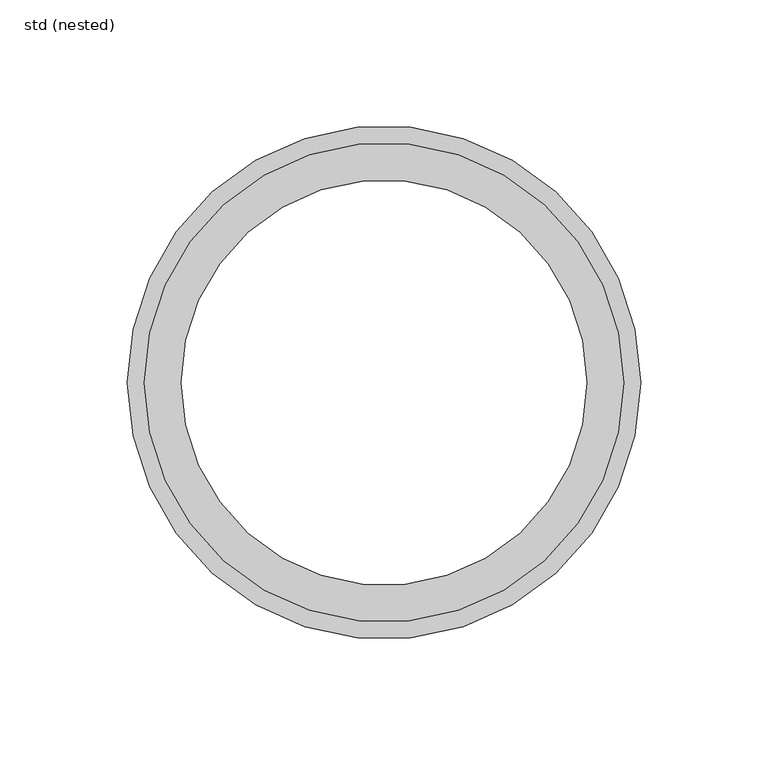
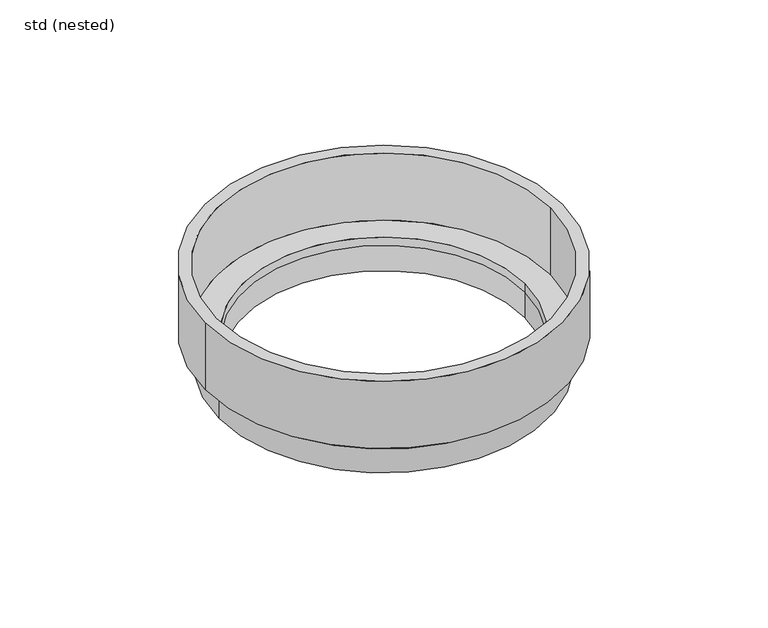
"""IFC4 building model written with IfcOpenShell, lengths in millimetres: sanitary terminal geometry, ZZZ_do not use_PF_CI_extension ring for Passavant Spin_ACO : std (nested)."""

from ifc_helpers import new_model, si_unit, frame, origin, origin_with_axes, place, context, project, spatial, polyline, circle_curve, source, transform, mapped, element, save
from ifc_brep_helpers import plane_surface, cylinder_surface, revolved_surface, advanced_brep


def std_nested_39a4419e(model_context):
    return source(origin(), model_context, "Body", "AdvancedBrep", [
        advanced_brep(
        [(-94.0, 0.0, -45.0), (94.0, 0.0, -45.0), (-92.75, 0.0, -45.0), (92.75, 0.0, -45.0), (-94.0, 0.0, -40.0), (94.0, 0.0, -40.0), (-79.5, 0.0, -40.0), (79.5, 0.0, -40.0), (94.0, 0.0, -40.0), (-94.0, 0.0, -40.0), (-79.5, 0.0, -45.0), (79.5, 0.0, -45.0), (-92.75, 0.0, -60.0), (92.75, 0.0, -60.0), (-79.5, 0.0, -60.0), (79.5, 0.0, -60.0), (-100.7, 0.0, -40.0), (100.7, 0.0, -40.0), (-100.7, 0.0, 0.0), (100.7, 0.0, 0.0), (-94.0, 0.0, 0.0), (94.0, 0.0, 0.0)],
        [
            (0, 1, circle_curve(frame((0.0, 0.0, -45.0), z_axis=(0.0, 0.0, -1.0), x_axis=(1.0, 0.0, 0.0)), 94.0)),
            (1, 0, circle_curve(frame((0.0, 0.0, -45.0), z_axis=(0.0, 0.0, -1.0), x_axis=(1.0, 0.0, 0.0)), 94.0)),
            (2, 3, circle_curve(frame((0.0, 0.0, -45.0), z_axis=(0.0, 0.0, 1.0), x_axis=(1.0, 0.0, 0.0)), 92.75)),
            (3, 2, circle_curve(frame((0.0, 0.0, -45.0), z_axis=(0.0, 0.0, 1.0), x_axis=(1.0, 0.0, 0.0)), 92.75)),
            (4, 5, circle_curve(frame((0.0, 0.0, -40.0), z_axis=(0.0, 0.0, 1.0), x_axis=(1.0, 0.0, 0.0)), 94.0)),
            (5, 4, circle_curve(frame((0.0, 0.0, -40.0), z_axis=(0.0, 0.0, 1.0), x_axis=(1.0, 0.0, 0.0)), 94.0)),
            (6, 7, circle_curve(frame((0.0, 0.0, -40.0), z_axis=(0.0, 0.0, -1.0), x_axis=(1.0, 0.0, 0.0)), 79.5)),
            (7, 6, circle_curve(frame((0.0, 0.0, -40.0), z_axis=(0.0, 0.0, -1.0), x_axis=(1.0, 0.0, 0.0)), 79.5)),
            (1, 8),
            (8, 9, circle_curve(frame((0.0, 0.0, -40.0), z_axis=(0.0, 0.0, -1.0), x_axis=(1.0, 0.0, 0.0)), 94.0)),
            (9, 0),
            (9, 8, circle_curve(frame((0.0, 0.0, -40.0), z_axis=(0.0, 0.0, -1.0), x_axis=(1.0, 0.0, 0.0)), 94.0)),
            (6, 10),
            (10, 11, circle_curve(frame((0.0, 0.0, -45.0), z_axis=(0.0, 0.0, -1.0), x_axis=(1.0, 0.0, 0.0)), 79.5)),
            (11, 7),
            (11, 10, circle_curve(frame((0.0, 0.0, -45.0), z_axis=(0.0, 0.0, -1.0), x_axis=(1.0, 0.0, 0.0)), 79.5)),
            (12, 13, circle_curve(frame((0.0, 0.0, -60.0), z_axis=(0.0, 0.0, -1.0), x_axis=(1.0, 0.0, 0.0)), 92.75)),
            (13, 12, circle_curve(frame((0.0, 0.0, -60.0), z_axis=(0.0, 0.0, -1.0), x_axis=(1.0, 0.0, 0.0)), 92.75)),
            (14, 15, circle_curve(frame((0.0, 0.0, -60.0), z_axis=(0.0, 0.0, 1.0), x_axis=(1.0, 0.0, 0.0)), 79.5)),
            (15, 14, circle_curve(frame((0.0, 0.0, -60.0), z_axis=(0.0, 0.0, 1.0), x_axis=(1.0, 0.0, 0.0)), 79.5)),
            (15, 11),
            (10, 14),
            (13, 3),
            (2, 12),
            (16, 17, circle_curve(frame((0.0, 0.0, -40.0), z_axis=(0.0, 0.0, -1.0), x_axis=(1.0, 0.0, 0.0)), 100.7)),
            (17, 16, circle_curve(frame((0.0, 0.0, -40.0), z_axis=(0.0, 0.0, -1.0), x_axis=(1.0, 0.0, 0.0)), 100.7)),
            (18, 19, circle_curve(origin_with_axes(), 100.7)),
            (19, 18, circle_curve(origin_with_axes(), 100.7)),
            (20, 21, circle_curve(frame((0.0, 0.0, 0.0), z_axis=(0.0, 0.0, -1.0), x_axis=(1.0, 0.0, 0.0)), 94.0)),
            (21, 20, circle_curve(frame((0.0, 0.0, 0.0), z_axis=(0.0, 0.0, -1.0), x_axis=(1.0, 0.0, 0.0)), 94.0)),
            (16, 18),
            (19, 17),
            (21, 5),
            (4, 20),
        ],
        [
            plane_surface(frame((94.0, 0.0, -45.0), z_axis=(0.0, 0.0, -1.0), x_axis=(0.0, -1.0, 0.0))),
            plane_surface(frame((94.0, 0.0, -40.0), z_axis=(0.0, 0.0, 1.0), x_axis=(0.0, 1.0, 0.0))),
            cylinder_surface(frame((0.0, 0.0, -45.0), z_axis=(0.0, 0.0, 1.0), x_axis=(1.0, 0.0, 0.0)), 94.0),
            revolved_surface(polyline([(79.5, 0.0, -45.0), (79.5, 0.0, -40.0)]), (0.0, 0.0, 0.0), (0.0, 0.0, -1.0)),
            plane_surface(frame((79.5, 0.0, -60.0), z_axis=(0.0, 0.0, -1.0), x_axis=(0.0, 1.0, 0.0))),
            revolved_surface(polyline([(79.5, 0.0, -60.0), (79.5, 0.0, -45.0)]), (0.0, 0.0, -60.0), (0.0, 0.0, -1.0)),
            cylinder_surface(origin_with_axes(), 92.75),
            plane_surface(frame((100.7, 0.0, -40.0), z_axis=(0.0, 0.0, -1.0), x_axis=(0.0, -1.0, 0.0))),
            plane_surface(frame((100.7, 0.0, 0.0), z_axis=(0.0, 0.0, 1.0), x_axis=(0.0, 1.0, 0.0))),
            cylinder_surface(frame((0.0, 0.0, -40.0), z_axis=(0.0, 0.0, 1.0), x_axis=(1.0, 0.0, 0.0)), 100.7),
            revolved_surface(polyline([(94.0, 0.0, -40.0), (94.0, 0.0, 0.0)]), (0.0, 0.0, 0.0), (0.0, 0.0, -1.0)),
        ],
        [
            (0, [[1, 2], [3, 4]]),
            (1, [[5, 6], [7, 8]]),
            (2, [[-2, 9, 10, 11]]),
            (2, [[-1, -11, 12, -9]]),
            (3, [[-7, 13, 14, 15]]),
            (3, [[-8, -15, 16, -13]]),
            (4, [[17, 18], [19, 20]]),
            (5, [[-20, 21, -14, 22]]),
            (5, [[-19, -22, -16, -21]]),
            (6, [[-18, 23, -3, 24]]),
            (6, [[-17, -24, -4, -23]]),
            (7, [[25, 26], [-10, -12]]),
            (8, [[27, 28], [29, 30]]),
            (9, [[-25, 31, -28, 32]]),
            (9, [[-26, -32, -27, -31]]),
            (10, [[-30, 33, -5, 34]]),
            (10, [[-29, -34, -6, -33]]),
        ],
    ),
    ])


if __name__ == "__main__":
    model = new_model("IFC4")
    model_context = context("Model", 3, world=origin())
    ifc_project = project(units=[si_unit("LENGTHUNIT", "METRE", prefix="MILLI")], contexts=[model_context])
    site = spatial("IfcSite", under=ifc_project)
    building = spatial("IfcBuilding", under=site)
    placement = place(None, origin())
    std_nested_shape = std_nested_39a4419e(model_context)
    element("IfcSanitaryTerminal", 1, ObjectType="ZZZ_do not use_PF_CI_extension ring for Passavant Spin_ACO : std (nested)", at=placement, inside=building, context=model_context, shape_type="MappedRepresentation", body=[
        mapped(std_nested_shape, transform((0.0, 0.0, 0.0), x_axis=(1.0, 0.0, 0.0), y_axis=(0.0, 1.0, 0.0), z_axis=(0.0, 0.0, 1.0))),
    ])
    save(model, "model.ifc")
